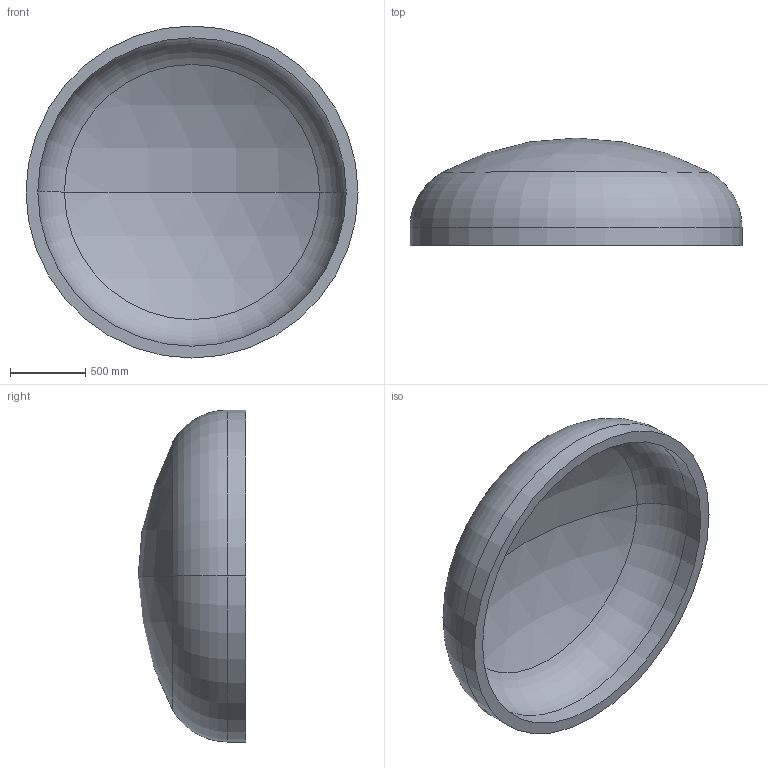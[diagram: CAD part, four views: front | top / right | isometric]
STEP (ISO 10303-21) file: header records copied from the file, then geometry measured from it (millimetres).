
FILE_DESCRIPTION (( 'STEP AP203' ), '1' );
FILE_NAME ('DIN 28013 Korbbogenform_-_Boden DIN 28013 - 2200 x 120 - I - s=78.step', '2016-07-01T14:48:01', ( '' ), ( '' ), 'SwSTEP 2.0', 'SolidWorks 2013', '' );
FILE_SCHEMA (( 'CONFIG_CONTROL_DESIGN' ));
Length unit declared in the file: millimetre
Products named in the file (1): DIN 28013 Korbbogenform_-_Boden DIN 28013 - 2200 x 120 - I - s=78
Bounding box: 2200 x 712.5 x 2200 mm (x, y, z)
Volume: 454825950.7 mm3; surface area: 12194926.6 mm2
Topology: 1 solids, 1 shells, 13 faces, 24 edges, 14 vertices
Faces by surface type: torus 4, cylinder 4, sphere 4, plane 1
Entity records: 407 total; most frequent: DIRECTION 72, CARTESIAN_POINT 52, ORIENTED_EDGE 48, AXIS2_PLACEMENT_3D 34, EDGE_CURVE 24, CIRCLE 20, EDGE_LOOP 14, VERTEX_POINT 14
